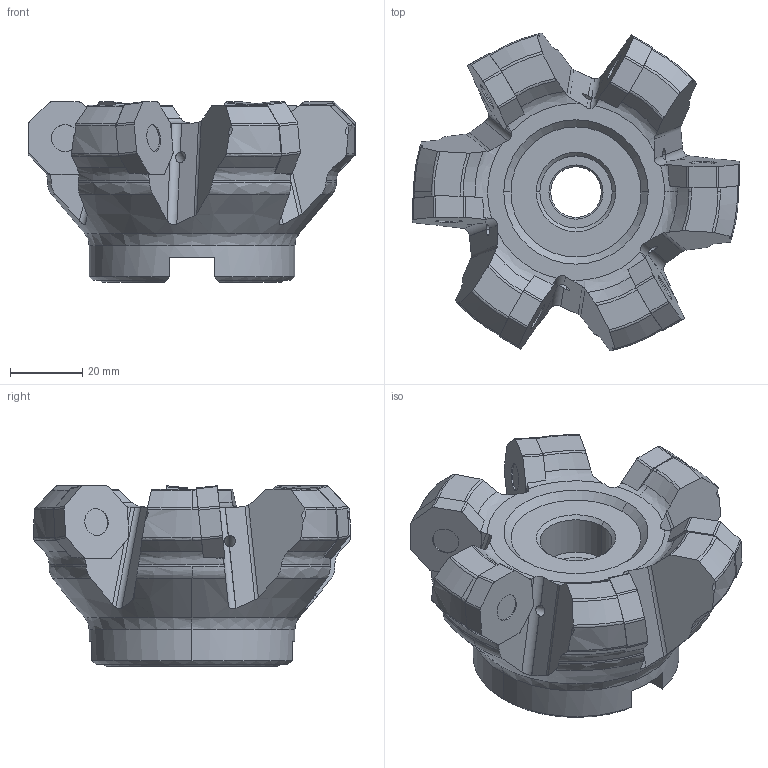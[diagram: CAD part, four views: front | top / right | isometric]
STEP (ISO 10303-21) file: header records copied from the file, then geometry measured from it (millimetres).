
FILE_DESCRIPTION (( 'STEP AP214' ), '1' );
FILE_NAME ('01-0603.STEP', '2022-08-16T22:41:08', ( '' ), ( '' ), 'SwSTEP 2.0', 'SolidWorks 2021', '' );
FILE_SCHEMA (( 'AUTOMOTIVE_DESIGN' ));
Length unit declared in the file: inch
Products named in the file (1): 01-0603
Bounding box: 90.66 x 87.99 x 50 mm (x, y, z)
Volume: 143918.2 mm3; surface area: 25197.8 mm2
Topology: 1 solids, 1 shells, 324 faces, 954 edges, 631 vertices
Faces by surface type: cylinder 123, plane 115, bspline 51, cone 35
Entity records: 12430 total; most frequent: CARTESIAN_POINT 4445, ORIENTED_EDGE 1908, DIRECTION 1423, EDGE_CURVE 954, VERTEX_POINT 631, AXIS2_PLACEMENT_3D 546, EDGE_LOOP 335, VECTOR 331
